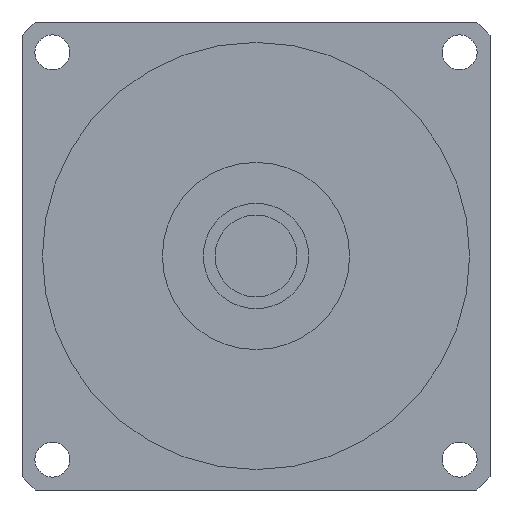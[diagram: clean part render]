
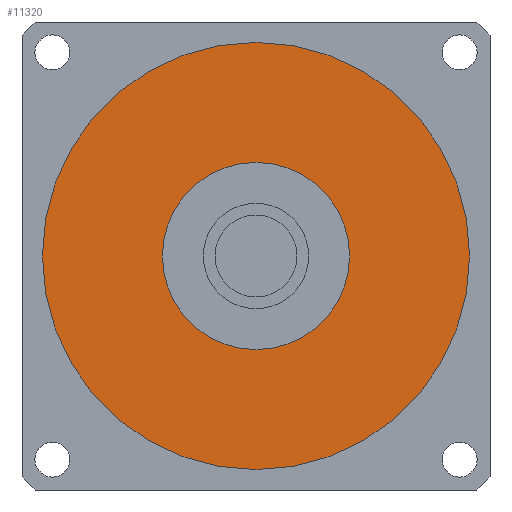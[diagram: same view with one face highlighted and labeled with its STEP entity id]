
A CAD part, left-side view. The second image highlights one B-rep face of the part: STEP entity #11320.
In plain terms, the highlighted planar face has unit normal (-1, 0, 0) as drawn and (0, 0, -1) by its records, which use the part's own axes.
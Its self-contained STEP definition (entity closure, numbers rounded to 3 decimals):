
#10660=CARTESIAN_POINT('',(0.,16.,-32.5));
#10670=VERTEX_POINT('',#10660);
#10720=CARTESIAN_POINT('',(0.,0.,
-32.5));
#10730=DIRECTION('',(0.,0.,1.));
#10740=DIRECTION('',(1.,0.,0.));
#10750=AXIS2_PLACEMENT_3D('',#10720,#10730,#10740);
#10760=CIRCLE('',#10750,16.);
#10770=CARTESIAN_POINT('',(0.,-16.,-32.5));
#10780=VERTEX_POINT('',#10770);
#10790=EDGE_CURVE('',#10670,#10780,#10760,.T.);
#10990=CARTESIAN_POINT('',(0.,0.,
-32.5));
#11000=DIRECTION('',(0.,0.,1.));
#11010=DIRECTION('',(0.,1.,0.));
#11020=AXIS2_PLACEMENT_3D('',#10990,#11000,#11010);
#11030=PLANE('',#11020);
#11040=CARTESIAN_POINT('',(0.,0.,
-32.5));
#11050=DIRECTION('',(0.,0.,1.));
#11060=DIRECTION('',(1.,0.,0.));
#11070=AXIS2_PLACEMENT_3D('',#11040,#11050,#11060);
#11080=CIRCLE('',#11070,36.51);
#11090=CARTESIAN_POINT('',(36.51,0.,-32.5));
#11100=VERTEX_POINT('',#11090);
#11110=CARTESIAN_POINT('',(0.,36.51,-32.5));
#11120=VERTEX_POINT('',#11110);
#11130=EDGE_CURVE('',#11100,#11120,#11080,.T.);
#11140=ORIENTED_EDGE('',*,*,#11130,.F.);
#11150=CARTESIAN_POINT('',(0.,-36.51,-32.5));
#11160=VERTEX_POINT('',#11150);
#11170=EDGE_CURVE('',#11120,#11160,#11080,.T.);
#11180=ORIENTED_EDGE('',*,*,#11170,.F.);
#11190=EDGE_CURVE('',#11160,#11100,#11080,.T.);
#11200=ORIENTED_EDGE('',*,*,#11190,.F.);
#11210=EDGE_LOOP('',(#11200,#11180,#11140));
#11220=FACE_OUTER_BOUND('',#11210,.T.);
#11230=ORIENTED_EDGE('',*,*,#10790,.T.);
#11240=CARTESIAN_POINT('',(16.,0.,-32.5));
#11250=VERTEX_POINT('',#11240);
#11260=EDGE_CURVE('',#11250,#10670,#10760,.T.);
#11270=ORIENTED_EDGE('',*,*,#11260,.T.);
#11280=EDGE_CURVE('',#10780,#11250,#10760,.T.);
#11290=ORIENTED_EDGE('',*,*,#11280,.T.);
#11300=EDGE_LOOP('',(#11290,#11270,#11230));
#11310=FACE_BOUND('',#11300,.T.);
#11320=ADVANCED_FACE('',(#11220,#11310),#11030,.F.);
